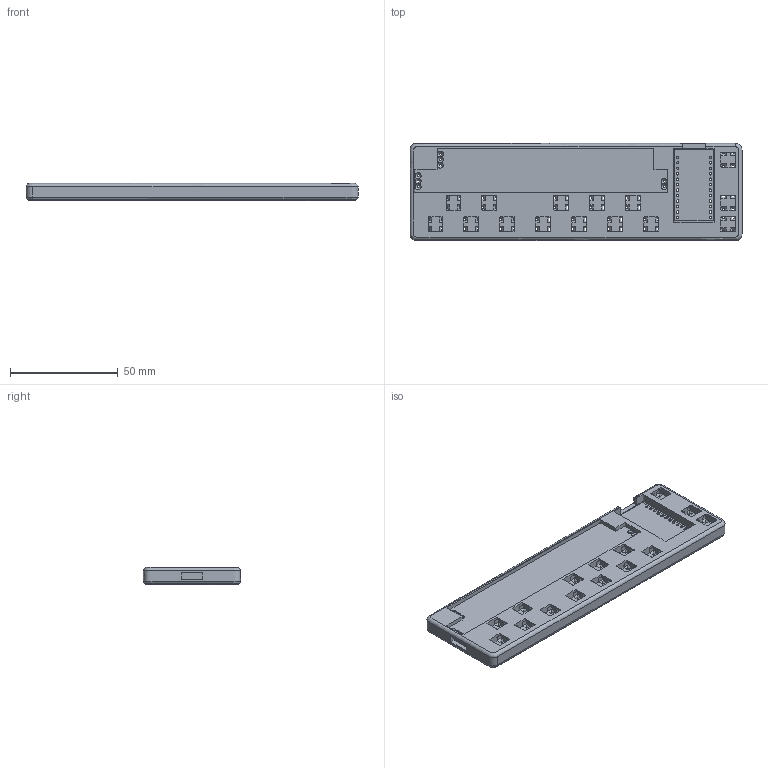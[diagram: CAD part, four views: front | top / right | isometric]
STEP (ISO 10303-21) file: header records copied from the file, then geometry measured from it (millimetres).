
FILE_DESCRIPTION(/* description */ (''),/* implementation_level */ '2;1');
FILE_NAME(/* name */ 'leet_keyboard_stp',/* time_stamp */ '2020-11-06T17:47:42+01:00',/* author */ (''),/* organization */ (''),/* preprocessor_version */ 'ST-DEVELOPER v10',/* originating_system */ '',/* authorisation */ '');
FILE_SCHEMA (('CONFIG_CONTROL_DESIGN'));
Length unit declared in the file: millimetre
Products named in the file (1): 1
Bounding box: 154 x 45 x 8 mm (x, y, z)
Volume: 35917.1 mm3; surface area: 25790.4 mm2
Topology: 1 solids, 1 shells, 1622 faces, 4463 edges, 2775 vertices
Faces by surface type: plane 1211, bspline 411
Entity records: 74526 total; most frequent: CARTESIAN_POINT 45358, ORIENTED_EDGE 8926, EDGE_CURVE 4463, B_SPLINE_CURVE_WITH_KNOTS 3958, VERTEX_POINT 2775, EDGE_LOOP 1738, ADVANCED_FACE 1622, FACE_OUTER_BOUND 1622
